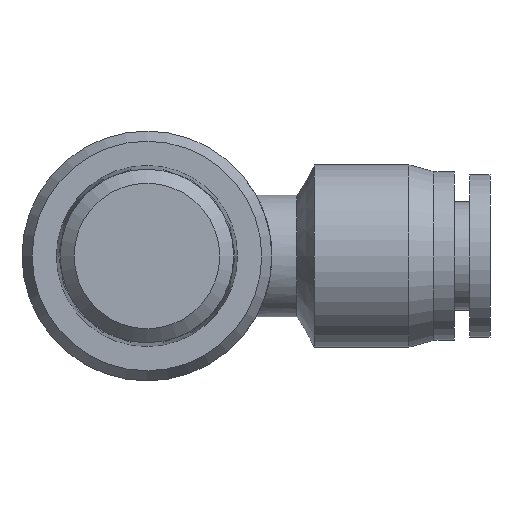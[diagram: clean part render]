
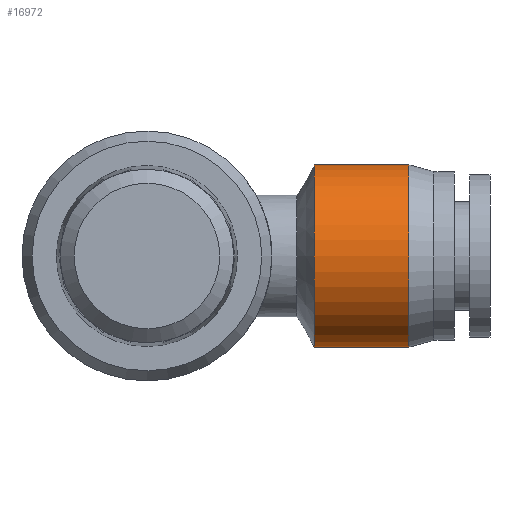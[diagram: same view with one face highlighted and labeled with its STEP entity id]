
A CAD part, front view. The second image highlights one B-rep face of the part: STEP entity #16972.
In plain terms, the highlighted cylindrical face has radius 6.75 mm (diameter 13.5 mm), a full revolution.
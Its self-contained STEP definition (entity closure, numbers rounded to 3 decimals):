
#16938=CARTESIAN_POINT('',(12.4,6.75,0.0));
#16939=VERTEX_POINT('',#16938);
#16940=CARTESIAN_POINT('',(12.4,0.0,0.0));
#16941=DIRECTION('',(1.0,0.0,0.0));
#16942=DIRECTION('',(0.0,1.0,0.0));
#16943=AXIS2_PLACEMENT_3D('',#16940,#16941,#16942);
#16944=CIRCLE('',#16943,6.75);
#16945=EDGE_CURVE('',#16939,#16939,#16944,.T.);
#16953=CARTESIAN_POINT('',(15.9,0.0,0.0));
#16954=DIRECTION('',(1.0,0.0,0.0));
#16955=DIRECTION('',(0.0,1.0,0.0));
#16956=AXIS2_PLACEMENT_3D('',#16953,#16954,#16955);
#16957=CYLINDRICAL_SURFACE('',#16956,6.75);
#16958=CARTESIAN_POINT('',(19.4,6.75,0.0));
#16959=VERTEX_POINT('',#16958);
#16960=CARTESIAN_POINT('',(19.4,0.0,0.0));
#16961=DIRECTION('',(1.0,0.0,0.0));
#16962=DIRECTION('',(0.0,1.0,0.0));
#16963=AXIS2_PLACEMENT_3D('',#16960,#16961,#16962);
#16964=CIRCLE('',#16963,6.75);
#16965=EDGE_CURVE('',#16959,#16959,#16964,.T.);
#16966=ORIENTED_EDGE('',*,*,#16965,.F.);
#16967=EDGE_LOOP('',(#16966));
#16968=FACE_OUTER_BOUND('',#16967,.T.);
#16969=ORIENTED_EDGE('',*,*,#16945,.T.);
#16970=EDGE_LOOP('',(#16969));
#16971=FACE_BOUND('',#16970,.T.);
#16972=ADVANCED_FACE('',(#16968,#16971),#16957,.T.);
